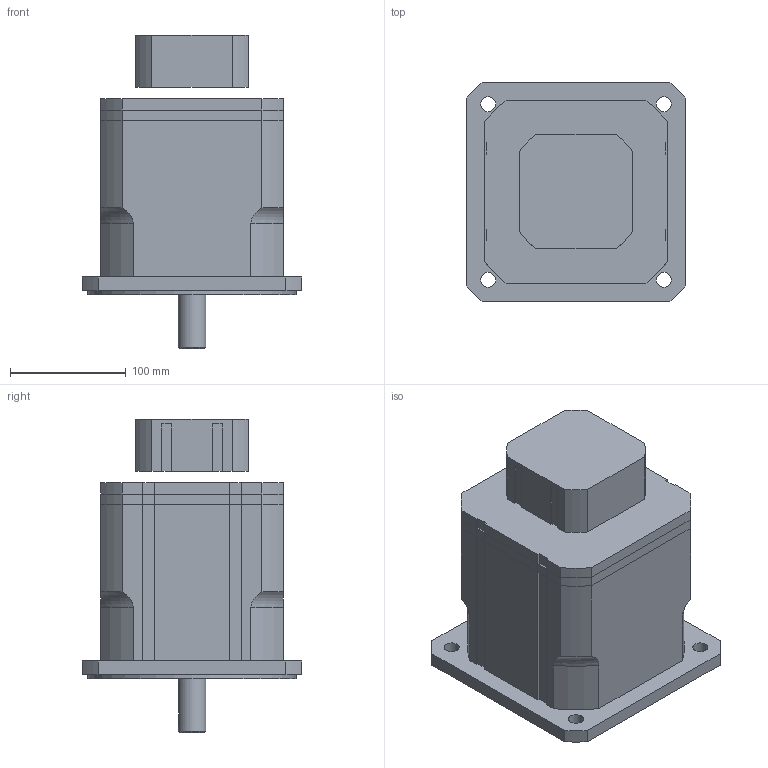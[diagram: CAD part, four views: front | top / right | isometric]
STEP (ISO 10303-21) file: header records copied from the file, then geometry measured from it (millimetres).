
FILE_DESCRIPTION(/* description */ ('Alibre Inc.'),/* implementation_level */ '2;1');
FILE_NAME(/* name */ 'export0',/* time_stamp */ '2011-12-08T07:52:18+01:00',/* author */ (''),/* organization */ (''),/* preprocessor_version */ 'ST-DEVELOPER v12',/* originating_system */ 'Alibre',/* authorisation */ '');
FILE_SCHEMA (('ALIBRE_SCHEMA','CONFIG_CONTROL_DESIGN'));
Length unit declared in the file: millimetre
Products named in the file (6): ID_1; ID_2
Bounding box: 190 x 190 x 271 mm (x, y, z)
Volume: 4819123.6 mm3; surface area: 281817.6 mm2
Topology: 5 solids, 5 shells, 168 faces, 428 edges, 281 vertices
Faces by surface type: plane 93, cylinder 63, cone 7, torus 4, bspline 1
Full cylindrical faces by diameter (mm): 2.7 x4, 6.647 x1, 13 x4, 20 x5, 22 x2, 24 x2, 25 x1, 180 x1
Entity records: 20783 total; most frequent: CARTESIAN_POINT 4555, DIRECTION 2458, ORIENTED_EDGE 2432, EDGE_CURVE 1216, AXIS2_PLACEMENT_3D 930, VECTOR 895, VERTEX_POINT 852, LINE 839
